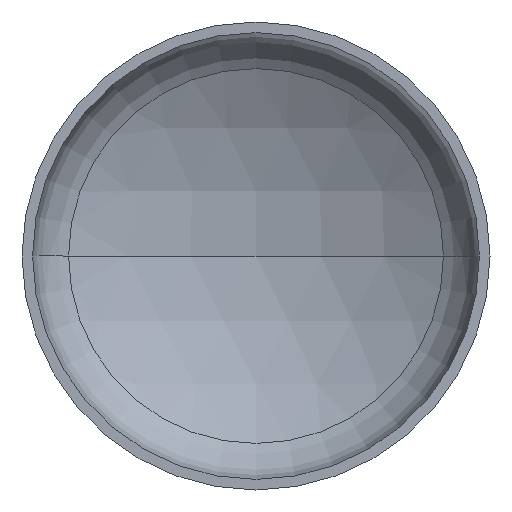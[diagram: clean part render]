
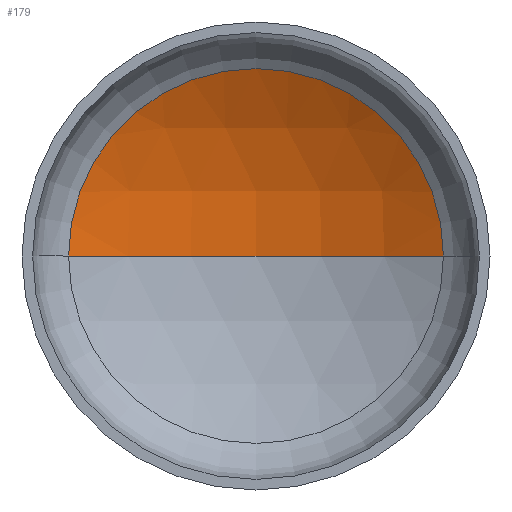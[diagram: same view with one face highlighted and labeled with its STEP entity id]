
A CAD part, front view. The second image highlights one B-rep face of the part: STEP entity #179.
In plain terms, the highlighted spherical face has radius 3040 mm.
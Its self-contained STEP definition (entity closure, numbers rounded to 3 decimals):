
#19 = AXIS2_PLACEMENT_3D ( 'NONE', #167, #277, #135 ) ;
#22 = EDGE_LOOP ( 'NONE', ( #129, #93, #81 ) ) ;
#25 = AXIS2_PLACEMENT_3D ( 'NONE', #258, #213, #377 ) ;
#28 = AXIS2_PLACEMENT_3D ( 'NONE', #130, #158, #154 ) ;
#32 = VERTEX_POINT ( 'NONE', #289 ) ;
#55 = VERTEX_POINT ( 'NONE', #288 ) ;
#69 = AXIS2_PLACEMENT_3D ( 'NONE', #203, #216, #187 ) ;
#81 = ORIENTED_EDGE ( 'NONE', *, *, #318, .T. ) ;
#93 = ORIENTED_EDGE ( 'NONE', *, *, #334, .T. ) ;
#109 = FACE_OUTER_BOUND ( 'NONE', #22, .T. ) ;
#117 = VERTEX_POINT ( 'NONE', #324 ) ;
#129 = ORIENTED_EDGE ( 'NONE', *, *, #346, .F. ) ;
#130 = CARTESIAN_POINT ( 'NONE',  ( 0., 606.418, 0. ) ) ;
#135 = DIRECTION ( 'NONE',  ( 1., 0., 0. ) ) ;
#154 = DIRECTION ( 'NONE',  ( 1., 0., 0. ) ) ;
#158 = DIRECTION ( 'NONE',  ( 0., -1., 0. ) ) ;
#167 = CARTESIAN_POINT ( 'NONE',  ( 0., -2025.226, 0. ) ) ;
#179 = ADVANCED_FACE ( 'NONE', ( #109 ), #194, .F. ) ;
#187 = DIRECTION ( 'NONE',  ( -1., 0., 0. ) ) ;
#194 = SPHERICAL_SURFACE ( 'NONE', #69, 3040. ) ;
#203 = CARTESIAN_POINT ( 'NONE',  ( 0., -2025.226, 0. ) ) ;
#213 = DIRECTION ( 'NONE',  ( 0., 0., -1. ) ) ;
#216 = DIRECTION ( 'NONE',  ( 0., 0., -1. ) ) ;
#223 = CIRCLE ( 'NONE', #19, 3040. ) ;
#258 = CARTESIAN_POINT ( 'NONE',  ( 0., -2025.226, 0. ) ) ;
#277 = DIRECTION ( 'NONE',  ( 0., 0., 1. ) ) ;
#278 = CIRCLE ( 'NONE', #25, 3040. ) ;
#285 = CIRCLE ( 'NONE', #28, 1521.857 ) ;
#288 = CARTESIAN_POINT ( 'NONE',  ( 1521.857, 606.418, 0. ) ) ;
#289 = CARTESIAN_POINT ( 'NONE',  ( 0., 1014.774, 0. ) ) ;
#318 = EDGE_CURVE ( 'NONE', #55, #117, #285, .T. ) ;
#324 = CARTESIAN_POINT ( 'NONE',  ( -1521.857, 606.418, 0. ) ) ;
#334 = EDGE_CURVE ( 'NONE', #32, #55, #278, .T. ) ;
#346 = EDGE_CURVE ( 'NONE', #32, #117, #223, .T. ) ;
#377 = DIRECTION ( 'NONE',  ( -1., 0., 0. ) ) ;
